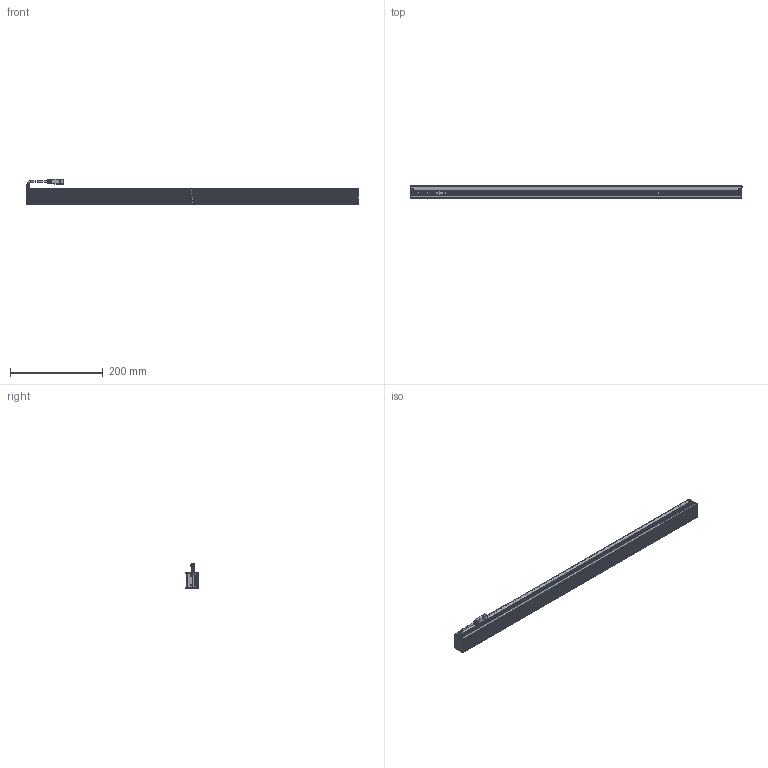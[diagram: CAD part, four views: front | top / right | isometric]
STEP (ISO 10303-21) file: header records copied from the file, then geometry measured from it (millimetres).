
FILE_DESCRIPTION (( 'STEP AP214' ), '1' );
FILE_NAME ('2BRD70030蚾饜极.STEP', '2024-07-22T01:47:52', ( '' ), ( '' ), 'SwSTEP 2.0', 'SolidWorks 2014', '' );
FILE_SCHEMA (( 'AUTOMOTIVE_DESIGN' ));
Length unit declared in the file: millimetre
Products named in the file (1): 2BRD70030蚾饜极
Bounding box: 716 x 26 x 55.25 mm (x, y, z)
Surface area: 180187.9 mm2 (no closed solid volume)
Topology: 0 solids, 7 shells, 352 faces, 1332 edges, 945 vertices
Faces by surface type: plane 228, cylinder 92, cone 24, bspline 6, torus 2
Entity records: 18182 total; most frequent: CARTESIAN_POINT 3213, DIRECTION 2256, ORIENTED_EDGE 2123, EDGE_CURVE 1332, LINE 982, VECTOR 982, VERTEX_POINT 945, AXIS2_PLACEMENT_3D 637
